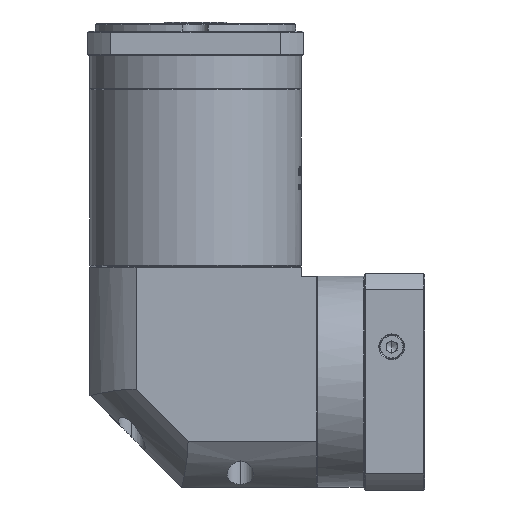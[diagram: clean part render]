
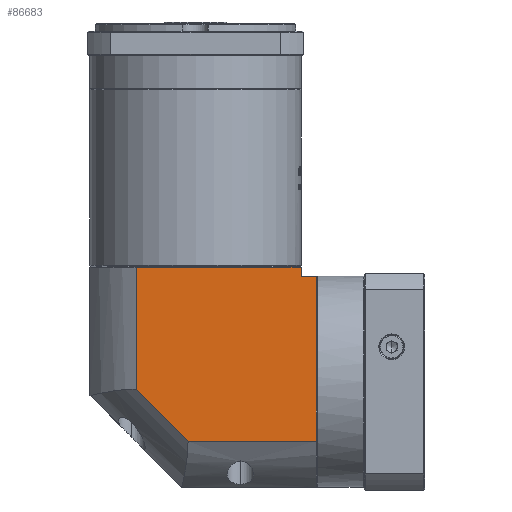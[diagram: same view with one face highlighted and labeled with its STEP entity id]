
A CAD part, left-side view. The second image highlights one B-rep face of the part: STEP entity #86683.
In plain terms, the highlighted planar face has unit normal (-1, 0, 0).
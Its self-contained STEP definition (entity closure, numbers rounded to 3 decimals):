
#13 = VERTEX_POINT ( 'NONE', #54208 ) ;
#1668 = CARTESIAN_POINT ( 'NONE',  ( -255.935, 23.83, 92.325 ) ) ;
#3769 = DIRECTION ( 'NONE',  ( 0., 0., -1. ) ) ;
#6580 = DIRECTION ( 'NONE',  ( 0., 0., 1. ) ) ;
#9592 = DIRECTION ( 'NONE',  ( 0., 1., 0. ) ) ;
#10060 = ORIENTED_EDGE ( 'NONE', *, *, #80413, .T. ) ;
#13644 = FACE_OUTER_BOUND ( 'NONE', #93796, .T. ) ;
#16139 = ORIENTED_EDGE ( 'NONE', *, *, #57451, .F. ) ;
#28982 = ORIENTED_EDGE ( 'NONE', *, *, #117297, .F. ) ;
#35301 = VERTEX_POINT ( 'NONE', #97356 ) ;
#37174 = VERTEX_POINT ( 'NONE', #105023 ) ;
#41297 = DIRECTION ( 'NONE',  ( 0., -1., 0. ) ) ;
#47301 = DIRECTION ( 'NONE',  ( 0., 0.707, 0.707 ) ) ;
#49466 = VERTEX_POINT ( 'NONE', #85436 ) ;
#50121 = LINE ( 'NONE', #123730, #103629 ) ;
#54002 = ORIENTED_EDGE ( 'NONE', *, *, #118304, .F. ) ;
#54208 = CARTESIAN_POINT ( 'NONE',  ( -255.935, -99.57, 80.825 ) ) ;
#57451 = EDGE_CURVE ( 'NONE', #13, #37174, #65696, .T. ) ;
#63270 = DIRECTION ( 'NONE',  ( 1., 0., 0. ) ) ;
#63850 = DIRECTION ( 'NONE',  ( 0., 0., 1. ) ) ;
#65696 = LINE ( 'NONE', #82012, #150895 ) ;
#66632 = VECTOR ( 'NONE', #47301, 1000. ) ;
#68641 = LINE ( 'NONE', #103284, #136004 ) ;
#74623 = ORIENTED_EDGE ( 'NONE', *, *, #139445, .T. ) ;
#78063 = VECTOR ( 'NONE', #146233, 1000. ) ;
#80413 = EDGE_CURVE ( 'NONE', #13, #131123, #50121, .T. ) ;
#82012 = CARTESIAN_POINT ( 'NONE',  ( -255.935, -99.57, 92.325 ) ) ;
#85436 = CARTESIAN_POINT ( 'NONE',  ( -255.935, -91.17, 85.825 ) ) ;
#86683 = ADVANCED_FACE ( 'NONE', ( #13644 ), #138039, .F. ) ;
#88758 = CARTESIAN_POINT ( 'NONE',  ( -255.935, -1.271, 92.325 ) ) ;
#93796 = EDGE_LOOP ( 'NONE', ( #102489, #54002, #28982, #16139, #10060, #74623, #121089 ) ) ;
#94081 = LINE ( 'NONE', #122360, #78063 ) ;
#97356 = CARTESIAN_POINT ( 'NONE',  ( -255.935, -1.271, 19.263 ) ) ;
#97664 = CARTESIAN_POINT ( 'NONE',  ( -255.935, -1.271, 85.825 ) ) ;
#99654 = VECTOR ( 'NONE', #63850, 1000. ) ;
#101869 = VERTEX_POINT ( 'NONE', #97664 ) ;
#102489 = ORIENTED_EDGE ( 'NONE', *, *, #107642, .F. ) ;
#103284 = CARTESIAN_POINT ( 'NONE',  ( -255.935, 23.83, 85.825 ) ) ;
#103629 = VECTOR ( 'NONE', #9592, 1000. ) ;
#103650 = DIRECTION ( 'NONE',  ( 0., 1., 0. ) ) ;
#104755 = VECTOR ( 'NONE', #6580, 1000. ) ;
#105023 = CARTESIAN_POINT ( 'NONE',  ( -255.935, -99.57, -9.075 ) ) ;
#107624 = LINE ( 'NONE', #88758, #99654 ) ;
#107642 = EDGE_CURVE ( 'NONE', #35301, #101869, #107624, .T. ) ;
#111675 = CARTESIAN_POINT ( 'NONE',  ( -255.935, -91.17, 80.825 ) ) ;
#112749 = LINE ( 'NONE', #157879, #104755 ) ;
#114175 = LINE ( 'NONE', #161864, #66632 ) ;
#117297 = EDGE_CURVE ( 'NONE', #37174, #123328, #94081, .T. ) ;
#118304 = EDGE_CURVE ( 'NONE', #123328, #35301, #114175, .T. ) ;
#121089 = ORIENTED_EDGE ( 'NONE', *, *, #163757, .F. ) ;
#122360 = CARTESIAN_POINT ( 'NONE',  ( -255.935, 23.83, -9.075 ) ) ;
#123328 = VERTEX_POINT ( 'NONE', #132563 ) ;
#123730 = CARTESIAN_POINT ( 'NONE',  ( -255.935, -91.17, 80.825 ) ) ;
#131123 = VERTEX_POINT ( 'NONE', #111675 ) ;
#132563 = CARTESIAN_POINT ( 'NONE',  ( -255.935, -29.609, -9.075 ) ) ;
#136004 = VECTOR ( 'NONE', #41297, 1000. ) ;
#138039 = PLANE ( 'NONE',  #149306 ) ;
#139445 = EDGE_CURVE ( 'NONE', #131123, #49466, #112749, .T. ) ;
#146233 = DIRECTION ( 'NONE',  ( 0., 1., 0. ) ) ;
#149306 = AXIS2_PLACEMENT_3D ( 'NONE', #1668, #63270, #103650 ) ;
#150895 = VECTOR ( 'NONE', #3769, 1000. ) ;
#157879 = CARTESIAN_POINT ( 'NONE',  ( -255.935, -91.17, -34.175 ) ) ;
#161864 = CARTESIAN_POINT ( 'NONE',  ( -255.935, -29.609, -9.075 ) ) ;
#163757 = EDGE_CURVE ( 'NONE', #101869, #49466, #68641, .T. ) ;
